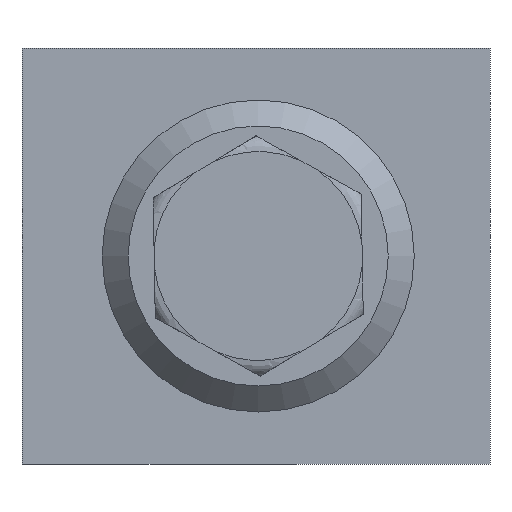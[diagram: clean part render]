
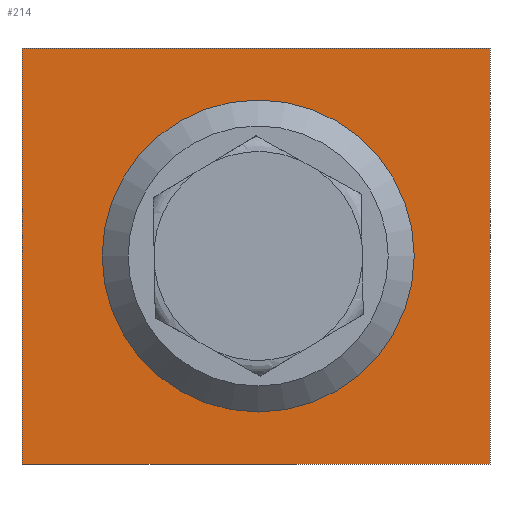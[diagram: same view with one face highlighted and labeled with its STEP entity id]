
A CAD part, left-side view. The second image highlights one B-rep face of the part: STEP entity #214.
In plain terms, the highlighted planar face has unit normal (-1, 0, 0).
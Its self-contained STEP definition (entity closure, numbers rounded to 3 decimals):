
#214=ADVANCED_FACE('',(#520,#521),#302,.F.);
#302=PLANE('',#1485);
#340=LINE('',#2011,#428);
#344=LINE('',#2026,#432);
#345=LINE('',#2028,#433);
#346=LINE('',#2030,#434);
#428=VECTOR('',#1630,1.);
#432=VECTOR('',#1642,1.);
#433=VECTOR('',#1643,1.);
#434=VECTOR('',#1644,1.);
#520=FACE_BOUND('',#584,.T.);
#521=FACE_BOUND('',#585,.T.);
#584=EDGE_LOOP('',(#701));
#585=EDGE_LOOP('',(#702,#703,#704,#705));
#701=ORIENTED_EDGE('',*,*,#1234,.F.);
#702=ORIENTED_EDGE('',*,*,#1228,.T.);
#703=ORIENTED_EDGE('',*,*,#1235,.F.);
#704=ORIENTED_EDGE('',*,*,#1236,.F.);
#705=ORIENTED_EDGE('',*,*,#1237,.T.);
#1083=VERTEX_POINT('',#2012);
#1084=VERTEX_POINT('',#2013);
#1089=VERTEX_POINT('',#2025);
#1090=VERTEX_POINT('',#2027);
#1091=VERTEX_POINT('',#2029);
#1228=EDGE_CURVE('',#1083,#1084,#340,.T.);
#1234=EDGE_CURVE('',#1089,#1089,#1424,.T.);
#1235=EDGE_CURVE('',#1090,#1084,#344,.T.);
#1236=EDGE_CURVE('',#1091,#1090,#345,.T.);
#1237=EDGE_CURVE('',#1091,#1083,#346,.T.);
#1424=CIRCLE('',#1484,30.);
#1484=AXIS2_PLACEMENT_3D('',#2024,#1640,#1641);
#1485=AXIS2_PLACEMENT_3D('',#2031,#1645,#1646);
#1630=DIRECTION('',(0.,-1.,0.));
#1640=DIRECTION('',(-1.,0.,0.));
#1641=DIRECTION('',(0.,-1.,0.));
#1642=DIRECTION('',(0.,0.,-1.));
#1643=DIRECTION('',(0.,-1.,0.));
#1644=DIRECTION('',(0.,0.,-1.));
#1645=DIRECTION('',(1.,0.,0.));
#1646=DIRECTION('',(0.,0.,-1.));
#2011=CARTESIAN_POINT('',(-62.5,45.,0.));
#2012=CARTESIAN_POINT('',(-62.5,45.,0.));
#2013=CARTESIAN_POINT('',(-62.5,-45.,0.));
#2024=CARTESIAN_POINT('',(-62.5,-0.421,40.));
#2025=CARTESIAN_POINT('',(-62.5,-30.421,40.));
#2026=CARTESIAN_POINT('',(-62.5,-45.,80.));
#2027=CARTESIAN_POINT('',(-62.5,-45.,80.));
#2028=CARTESIAN_POINT('',(-62.5,45.,80.));
#2029=CARTESIAN_POINT('',(-62.5,45.,80.));
#2030=CARTESIAN_POINT('',(-62.5,45.,80.));
#2031=CARTESIAN_POINT('',(-62.5,45.,80.));
